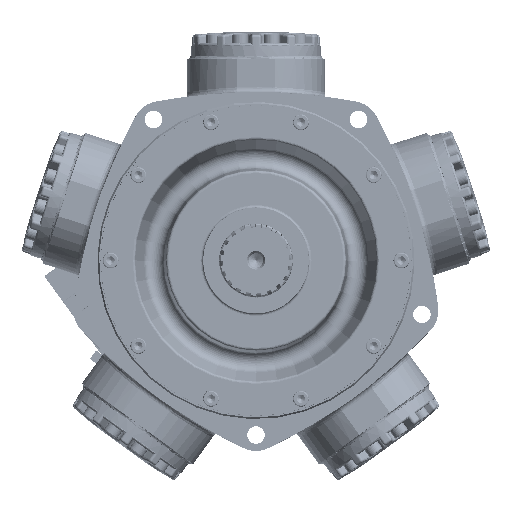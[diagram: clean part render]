
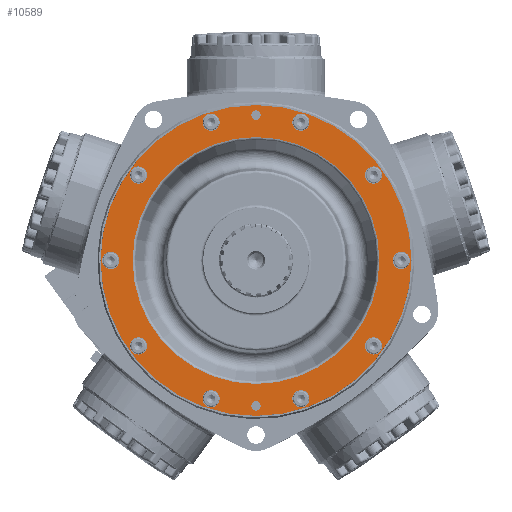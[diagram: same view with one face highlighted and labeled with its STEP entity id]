
A CAD part, top view. The second image highlights one B-rep face of the part: STEP entity #10589.
In plain terms, the highlighted planar face has unit normal (0, 0, 1).
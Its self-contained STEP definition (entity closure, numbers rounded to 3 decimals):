
#9626=CARTESIAN_POINT('',(5.664,174.625,69.152));
#9627=VERTEX_POINT('',#9626);
#9628=CARTESIAN_POINT('',(0.,174.625,69.152));
#9629=DIRECTION('',(0.0,0.0,-1.0));
#9630=DIRECTION('',(1.0,0.0,0.0));
#9631=AXIS2_PLACEMENT_3D('',#9628,#9629,#9630);
#9632=CIRCLE('',#9631,5.664);
#9633=EDGE_CURVE('',#9627,#9627,#9632,.T.);
#9654=CARTESIAN_POINT('',(5.664,-174.625,69.152));
#9655=VERTEX_POINT('',#9654);
#9656=CARTESIAN_POINT('',(0.,-174.625,69.152));
#9657=DIRECTION('',(0.0,0.0,-1.0));
#9658=DIRECTION('',(1.0,0.0,0.0));
#9659=AXIS2_PLACEMENT_3D('',#9656,#9657,#9658);
#9660=CIRCLE('',#9659,5.664);
#9661=EDGE_CURVE('',#9655,#9655,#9660,.T.);
#9671=CARTESIAN_POINT('',(57.151,-175.892,69.152));
#9672=VERTEX_POINT('',#9671);
#9673=CARTESIAN_POINT('',(53.962,-166.078,69.152));
#9674=DIRECTION('',(0.,0.,-1.0));
#9675=DIRECTION('',(0.309,-0.951,0.));
#9676=AXIS2_PLACEMENT_3D('',#9673,#9674,#9675);
#9677=CIRCLE('',#9676,10.319);
#9678=EDGE_CURVE('',#9672,#9672,#9677,.T.);
#9711=CARTESIAN_POINT('',(-57.151,-175.892,69.152));
#9712=VERTEX_POINT('',#9711);
#9713=CARTESIAN_POINT('',(-53.962,-166.078,69.152));
#9714=DIRECTION('',(0.,0.,-1.0));
#9715=DIRECTION('',(-0.309,-0.951,0.));
#9716=AXIS2_PLACEMENT_3D('',#9713,#9714,#9715);
#9717=CIRCLE('',#9716,10.319);
#9718=EDGE_CURVE('',#9712,#9712,#9717,.T.);
#9759=CARTESIAN_POINT('',(-149.623,-108.707,69.152));
#9760=VERTEX_POINT('',#9759);
#9761=CARTESIAN_POINT('',(-141.275,-102.642,69.152));
#9762=DIRECTION('',(0.,0.,-1.0));
#9763=DIRECTION('',(-0.809,-0.588,0.));
#9764=AXIS2_PLACEMENT_3D('',#9761,#9762,#9763);
#9765=CIRCLE('',#9764,10.319);
#9766=EDGE_CURVE('',#9760,#9760,#9765,.T.);
#9799=CARTESIAN_POINT('',(-184.944,0.,69.152));
#9800=VERTEX_POINT('',#9799);
#9801=CARTESIAN_POINT('',(-174.625,0.,69.152));
#9802=DIRECTION('',(0.0,0.0,-1.0));
#9803=DIRECTION('',(-1.0,0.0,0.0));
#9804=AXIS2_PLACEMENT_3D('',#9801,#9802,#9803);
#9805=CIRCLE('',#9804,10.319);
#9806=EDGE_CURVE('',#9800,#9800,#9805,.T.);
#9847=CARTESIAN_POINT('',(-149.623,108.707,69.152));
#9848=VERTEX_POINT('',#9847);
#9849=CARTESIAN_POINT('',(-141.275,102.642,69.152));
#9850=DIRECTION('',(0.,0.,-1.0));
#9851=DIRECTION('',(-0.809,0.588,0.));
#9852=AXIS2_PLACEMENT_3D('',#9849,#9850,#9851);
#9853=CIRCLE('',#9852,10.319);
#9854=EDGE_CURVE('',#9848,#9848,#9853,.T.);
#9887=CARTESIAN_POINT('',(-57.151,175.892,69.152));
#9888=VERTEX_POINT('',#9887);
#9889=CARTESIAN_POINT('',(-53.962,166.078,69.152));
#9890=DIRECTION('',(0.,0.,-1.0));
#9891=DIRECTION('',(-0.309,0.951,0.));
#9892=AXIS2_PLACEMENT_3D('',#9889,#9890,#9891);
#9893=CIRCLE('',#9892,10.319);
#9894=EDGE_CURVE('',#9888,#9888,#9893,.T.);
#9935=CARTESIAN_POINT('',(57.151,175.892,69.152));
#9936=VERTEX_POINT('',#9935);
#9937=CARTESIAN_POINT('',(53.962,166.078,69.152));
#9938=DIRECTION('',(0.,0.,-1.0));
#9939=DIRECTION('',(0.309,0.951,0.));
#9940=AXIS2_PLACEMENT_3D('',#9937,#9938,#9939);
#9941=CIRCLE('',#9940,10.319);
#9942=EDGE_CURVE('',#9936,#9936,#9941,.T.);
#9975=CARTESIAN_POINT('',(149.623,108.707,69.152));
#9976=VERTEX_POINT('',#9975);
#9977=CARTESIAN_POINT('',(141.275,102.642,69.152));
#9978=DIRECTION('',(0.,0.,-1.0));
#9979=DIRECTION('',(0.809,0.588,0.));
#9980=AXIS2_PLACEMENT_3D('',#9977,#9978,#9979);
#9981=CIRCLE('',#9980,10.319);
#9982=EDGE_CURVE('',#9976,#9976,#9981,.T.);
#10015=CARTESIAN_POINT('',(149.623,-108.707,69.152));
#10016=VERTEX_POINT('',#10015);
#10017=CARTESIAN_POINT('',(141.275,-102.642,69.152));
#10018=DIRECTION('',(0.,0.,-1.0));
#10019=DIRECTION('',(0.809,-0.588,0.));
#10020=AXIS2_PLACEMENT_3D('',#10017,#10018,#10019);
#10021=CIRCLE('',#10020,10.319);
#10022=EDGE_CURVE('',#10016,#10016,#10021,.T.);
#10063=CARTESIAN_POINT('',(184.944,0.,69.152));
#10064=VERTEX_POINT('',#10063);
#10065=CARTESIAN_POINT('',(174.625,0.,69.152));
#10066=DIRECTION('',(0.0,0.0,-1.0));
#10067=DIRECTION('',(1.0,0.0,0.0));
#10068=AXIS2_PLACEMENT_3D('',#10065,#10066,#10067);
#10069=CIRCLE('',#10068,10.319);
#10070=EDGE_CURVE('',#10064,#10064,#10069,.T.);
#10299=CARTESIAN_POINT('',(0.,186.627,69.152));
#10300=VERTEX_POINT('',#10299);
#10301=CARTESIAN_POINT('',(0.,0.,69.152));
#10302=DIRECTION('',(0.0,0.0,1.0));
#10303=DIRECTION('',(0.0,-1.0,0.0));
#10304=AXIS2_PLACEMENT_3D('',#10301,#10302,#10303);
#10305=CIRCLE('',#10304,186.626);
#10306=EDGE_CURVE('',#10300,#10300,#10305,.T.);
#10519=CARTESIAN_POINT('',(0.,148.273,69.152));
#10520=VERTEX_POINT('',#10519);
#10521=CARTESIAN_POINT('',(0.,0.,69.152));
#10522=DIRECTION('',(0.0,0.0,1.0));
#10523=DIRECTION('',(0.0,-1.0,0.0));
#10524=AXIS2_PLACEMENT_3D('',#10521,#10522,#10523);
#10525=CIRCLE('',#10524,148.273);
#10526=EDGE_CURVE('',#10520,#10520,#10525,.T.);
#10542=CARTESIAN_POINT('',(0.,169.863,69.152));
#10543=DIRECTION('',(0.0,0.0,1.0));
#10544=DIRECTION('',(1.0,0.0,0.0));
#10545=AXIS2_PLACEMENT_3D('',#10542,#10543,#10544);
#10546=PLANE('',#10545);
#10547=ORIENTED_EDGE('',*,*,#10306,.T.);
#10548=EDGE_LOOP('',(#10547));
#10549=FACE_OUTER_BOUND('',#10548,.T.);
#10550=ORIENTED_EDGE('',*,*,#9633,.T.);
#10551=EDGE_LOOP('',(#10550));
#10552=FACE_BOUND('',#10551,.T.);
#10553=ORIENTED_EDGE('',*,*,#9661,.T.);
#10554=EDGE_LOOP('',(#10553));
#10555=FACE_BOUND('',#10554,.T.);
#10556=ORIENTED_EDGE('',*,*,#9678,.T.);
#10557=EDGE_LOOP('',(#10556));
#10558=FACE_BOUND('',#10557,.T.);
#10559=ORIENTED_EDGE('',*,*,#9718,.T.);
#10560=EDGE_LOOP('',(#10559));
#10561=FACE_BOUND('',#10560,.T.);
#10562=ORIENTED_EDGE('',*,*,#9766,.T.);
#10563=EDGE_LOOP('',(#10562));
#10564=FACE_BOUND('',#10563,.T.);
#10565=ORIENTED_EDGE('',*,*,#9806,.T.);
#10566=EDGE_LOOP('',(#10565));
#10567=FACE_BOUND('',#10566,.T.);
#10568=ORIENTED_EDGE('',*,*,#9854,.T.);
#10569=EDGE_LOOP('',(#10568));
#10570=FACE_BOUND('',#10569,.T.);
#10571=ORIENTED_EDGE('',*,*,#9894,.T.);
#10572=EDGE_LOOP('',(#10571));
#10573=FACE_BOUND('',#10572,.T.);
#10574=ORIENTED_EDGE('',*,*,#9942,.T.);
#10575=EDGE_LOOP('',(#10574));
#10576=FACE_BOUND('',#10575,.T.);
#10577=ORIENTED_EDGE('',*,*,#9982,.T.);
#10578=EDGE_LOOP('',(#10577));
#10579=FACE_BOUND('',#10578,.T.);
#10580=ORIENTED_EDGE('',*,*,#10022,.T.);
#10581=EDGE_LOOP('',(#10580));
#10582=FACE_BOUND('',#10581,.T.);
#10583=ORIENTED_EDGE('',*,*,#10070,.T.);
#10584=EDGE_LOOP('',(#10583));
#10585=FACE_BOUND('',#10584,.T.);
#10586=ORIENTED_EDGE('',*,*,#10526,.F.);
#10587=EDGE_LOOP('',(#10586));
#10588=FACE_BOUND('',#10587,.T.);
#10589=ADVANCED_FACE('',(#10549,#10552,#10555,#10558,#10561,#10564,#10567,#10570,#10573,#10576,#10579,#10582,#10585,#10588),#10546,.T.);
